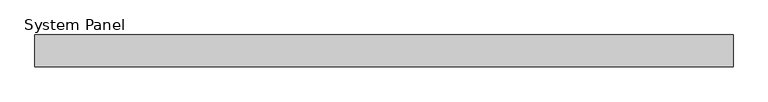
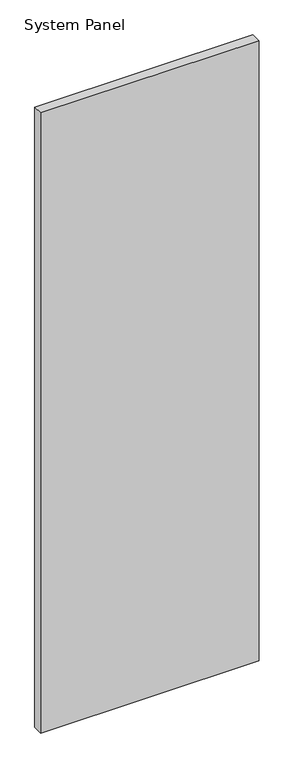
"""IFC4 building model written with IfcOpenShell, lengths in millimetres: plate geometry, System Panel : MetecnoPanel_50mm_Plain_Surfmist."""

import ifcopenshell
import ifcopenshell.guid

model = None  # the IFC model being written
_history = None  # IfcOwnerHistory: only IFC2X3 demands one
_inside = {}  # id of a spatial element -> (the spatial element, [elements in it])
_under = {}  # id of a project, library or spatial element -> (it, [spatial elements below it])
_declared = {}  # id of a project -> (the project, [libraries it declares])
_typed = {}  # id of a type object -> (the type object, [elements of that type])
_made_of = {}  # id of a material, layer set ... -> (it, [elements and type objects made of it])


def new_model(schema):
    """Start an empty IFC model of exactly this schema.

    Asked for "IFC4X3", IfcOpenShell would pick the latest addendum, in which some entities
    have other attributes; the version numbers below select the first issue.
    IFC2X3 requires an IfcOwnerHistory on every rooted entity: one is made here for all.
    """
    global model, _history
    if schema == "IFC4X3":
        model = ifcopenshell.file(schema_version=(4, 3, 0, 0))
    else:
        model = ifcopenshell.file(schema=schema)
    _inside.clear()
    _under.clear()
    _declared.clear()
    _typed.clear()
    _made_of.clear()
    _history = None
    if model.schema == "IFC2X3":
        org = make("IfcOrganization", Name="unknown")
        user = make(
            "IfcPersonAndOrganization",
            ThePerson=make("IfcPerson", FamilyName="unknown"),
            TheOrganization=org,
        )
        app = make(
            "IfcApplication",
            ApplicationDeveloper=org,
            Version="unknown",
            ApplicationFullName="unknown",
            ApplicationIdentifier="unknown",
        )
        _history = make(
            "IfcOwnerHistory",
            OwningUser=user,
            OwningApplication=app,
            ChangeAction="ADDED",
            CreationDate=0,
        )
    return model


def make(cls, **values):
    """One entity of the class cls with the attributes given. An attribute that is None is left unset."""
    return model.create_entity(
        cls, **{name: value for name, value in values.items() if value is not None}
    )


def rooted(cls, **values):
    """An entity with a GlobalId (a new one), such as an element, a storey or a relation."""
    return make(cls, GlobalId=ifcopenshell.guid.new(), OwnerHistory=_history, **values)


def si_unit(unit_type, name, prefix=None):
    """IfcSIUnit, for example si_unit("LENGTHUNIT", "METRE", prefix="MILLI")."""
    return make("IfcSIUnit", UnitType=unit_type, Prefix=prefix, Name=name)


def assignment(units):
    """IfcUnitAssignment: the units of a project."""
    return None if units is None else make("IfcUnitAssignment", Units=units)


def point(xyz):
    """IfcCartesianPoint."""
    return None if xyz is None else make("IfcCartesianPoint", Coordinates=xyz)


def direction(xyz):
    """IfcDirection."""
    return None if xyz is None else make("IfcDirection", DirectionRatios=xyz)


def frame(location, z_axis=None, x_axis=None):
    """IfcAxis2Placement3D, a coordinate frame: its origin and axes. An axis left out is left unset."""
    return make(
        "IfcAxis2Placement3D",
        Location=point(location),
        Axis=direction(z_axis),
        RefDirection=direction(x_axis),
    )


def origin():
    """The frame at (0, 0, 0) with its axes left unset."""
    return frame((0.0, 0.0, 0.0))


def origin_with_axes():
    """The frame at (0, 0, 0) with the z axis (0, 0, 1) and the x axis (1, 0, 0) written out."""
    return frame((0.0, 0.0, 0.0), z_axis=(0.0, 0.0, 1.0), x_axis=(1.0, 0.0, 0.0))


def place(relative_to, where):
    """IfcLocalPlacement: puts the frame where relative to a parent placement (None: the world)."""
    return make(
        "IfcLocalPlacement", PlacementRelTo=relative_to, RelativePlacement=where
    )


def context(
    kind, dimensions, precision=None, world=None, true_north=None, identifier=None
):
    """IfcGeometricRepresentationContext, for example the 3D "Model" context."""
    return make(
        "IfcGeometricRepresentationContext",
        ContextIdentifier=identifier,
        ContextType=kind,
        CoordinateSpaceDimension=dimensions,
        Precision=precision,
        WorldCoordinateSystem=world,
        TrueNorth=true_north,
    )


def project(units=None, contexts=None):
    """IfcProject with its units and contexts."""
    return rooted(
        "IfcProject",
        Name="project",
        RepresentationContexts=contexts,
        UnitsInContext=assignment(units),
    )


def spatial(cls, under=None, at=None, **own):
    """A site, building, storey or space (cls), placed at a placement, below another one or the project."""
    s = rooted(cls, ObjectPlacement=at, **own)
    if under is not None:
        _under.setdefault(under.id(), (under, []))[1].append(s)
    return s


def polyline(points):
    """IfcPolyline through the points."""
    return make("IfcPolyline", Points=[point(p) for p in points])


def outline(outer, holes=None, kind="AREA"):
    """IfcArbitraryClosedProfileDef: a profile drawn as a closed curve; with holes, ...WithVoids."""
    if holes is None:
        return make("IfcArbitraryClosedProfileDef", ProfileType=kind, OuterCurve=outer)
    return make(
        "IfcArbitraryProfileDefWithVoids",
        ProfileType=kind,
        OuterCurve=outer,
        InnerCurves=holes,
    )


def extrude(swept, where, along, depth):
    """IfcExtrudedAreaSolid: the profile swept, set in the frame where, extruded along a direction by depth."""
    return make(
        "IfcExtrudedAreaSolid",
        SweptArea=swept,
        Position=where,
        ExtrudedDirection=direction(along),
        Depth=depth,
    )


def shape(context_of_items, identifier, shape_type, items):
    """IfcShapeRepresentation: the items that make up one representation, for example the "Body"."""
    return make(
        "IfcShapeRepresentation",
        ContextOfItems=context_of_items,
        RepresentationIdentifier=identifier,
        RepresentationType=shape_type,
        Items=items,
    )


def source(mapping_origin, context_of_items, identifier, shape_type, items):
    """IfcRepresentationMap: a shape defined once, which mapped items show again and again."""
    return make(
        "IfcRepresentationMap",
        MappingOrigin=mapping_origin,
        MappedRepresentation=shape(context_of_items, identifier, shape_type, items),
    )


def transform(
    local_origin,
    x_axis=None,
    y_axis=None,
    z_axis=None,
    scale=None,
    scale2=None,
    scale3=None,
    uniform=True,
):
    """IfcCartesianTransformationOperator3D, or its non-uniform kind. x_axis, y_axis, z_axis: its Axis1, 2, 3."""
    if uniform:
        return make(
            "IfcCartesianTransformationOperator3D",
            Axis1=direction(x_axis),
            Axis2=direction(y_axis),
            LocalOrigin=point(local_origin),
            Scale=scale,
            Axis3=direction(z_axis),
        )
    return make(
        "IfcCartesianTransformationOperator3DnonUniform",
        Axis1=direction(x_axis),
        Axis2=direction(y_axis),
        LocalOrigin=point(local_origin),
        Scale=scale,
        Axis3=direction(z_axis),
        Scale2=scale2,
        Scale3=scale3,
    )


def mapped(mapping_source, mapping_target):
    """IfcMappedItem: shows the shape of a source again, moved by a transform."""
    return make(
        "IfcMappedItem", MappingSource=mapping_source, MappingTarget=mapping_target
    )


def made_of(thing, what):
    """Note that an element or type object is made of a material, layer set ...; save() writes the relation."""
    if what is not None:
        _made_of.setdefault(what.id(), (what, []))[1].append(thing)
    return thing


def element(
    cls,
    number,
    at=None,
    inside=None,
    cuts=None,
    type_object=None,
    material=None,
    context=None,
    identifier="Body",
    shape_type=None,
    held_by="IfcProductDefinitionShape",
    body=None,
    shapes=None,
    **own,
):
    """One element of the class cls, such as IfcWall. Its Tag is "e" and its number.

    at: its placement. inside: the storey or other place that contains it. cuts: it is an
    opening in that element (IfcRelVoidsElement). A single representation is given by context,
    identifier, shape_type and body (its items); several are given by shapes. held_by: the class
    of the entity that holds the representations. save() writes the other relations.
    """
    e = rooted(cls, Tag="e%d" % number, ObjectPlacement=at, **own)
    if body is not None:
        shapes = [shape(context, identifier, shape_type, body)]
    if shapes is not None:
        e.Representation = make(held_by, Representations=shapes)
    if inside is not None:
        _inside.setdefault(inside.id(), (inside, []))[1].append(e)
    if cuts is not None:
        rooted(
            "IfcRelVoidsElement", RelatingBuildingElement=cuts, RelatedOpeningElement=e
        )
    if type_object is not None:
        _typed.setdefault(type_object.id(), (type_object, []))[1].append(e)
    return made_of(e, material)


def aggregate(whole, parts):
    """IfcRelAggregates: a whole, such as a stair, and the parts it consists of."""
    return rooted("IfcRelAggregates", RelatingObject=whole, RelatedObjects=parts)


def save(model, path):
    """Write the relations noted so far, then the file.

    IfcRelAggregates (storeys below a building ...), IfcRelContainedInSpatialStructure (elements
    in a storey), IfcRelDefinesByType, IfcRelAssociatesMaterial and IfcRelDeclares: one each for
    every whole, place, type object, material and project.
    """
    for whole, parts in _under.values():
        aggregate(whole, parts)
    for where, things in _inside.values():
        rooted(
            "IfcRelContainedInSpatialStructure",
            RelatedElements=things,
            RelatingStructure=where,
        )
    for kind, things in _typed.values():
        rooted("IfcRelDefinesByType", RelatedObjects=things, RelatingType=kind)
    for what, things in _made_of.values():
        rooted("IfcRelAssociatesMaterial", RelatedObjects=things, RelatingMaterial=what)
    for by, libraries in _declared.values():
        rooted("IfcRelDeclares", RelatingContext=by, RelatedDefinitions=libraries)
    model.write(path)


def system_panel_6baa01c1(model_context):
    return source(origin(), model_context, "Body", "SweptSolid", [
        extrude(outline(polyline([(550.0, 0.0), (-550.0, 0.0), (-550.0, 50.0), (550.0, 50.0), (550.0, 0.0)])), origin_with_axes(), (0.0, 0.0, 1.0), 3300.0),
    ])


if __name__ == "__main__":
    model = new_model("IFC4")
    model_context = context("Model", 3, world=origin())
    ifc_project = project(units=[si_unit("LENGTHUNIT", "METRE", prefix="MILLI")], contexts=[model_context])
    site = spatial("IfcSite", under=ifc_project)
    building = spatial("IfcBuilding", under=site)
    placement = place(None, origin())
    system_panel_shape = system_panel_6baa01c1(model_context)
    element("IfcPlate", 1, ObjectType="System Panel : MetecnoPanel_50mm_Plain_Surfmist", at=placement, inside=building, context=model_context, shape_type="MappedRepresentation", body=[
        mapped(system_panel_shape, transform((0.0, 0.0, 0.0), x_axis=(1.0, 0.0, 0.0), y_axis=(0.0, 1.0, 0.0), z_axis=(0.0, 0.0, 1.0))),
    ])
    save(model, "model.ifc")
